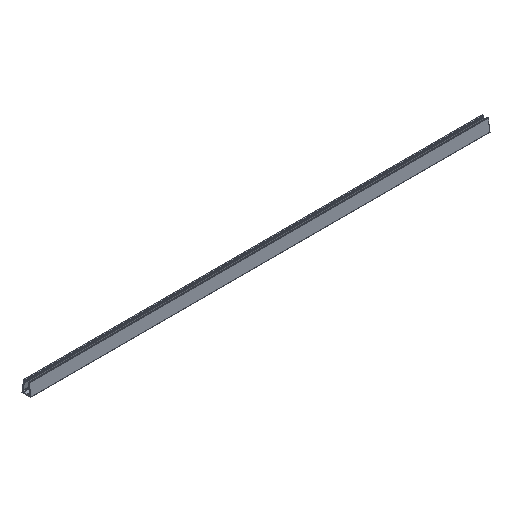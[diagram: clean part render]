
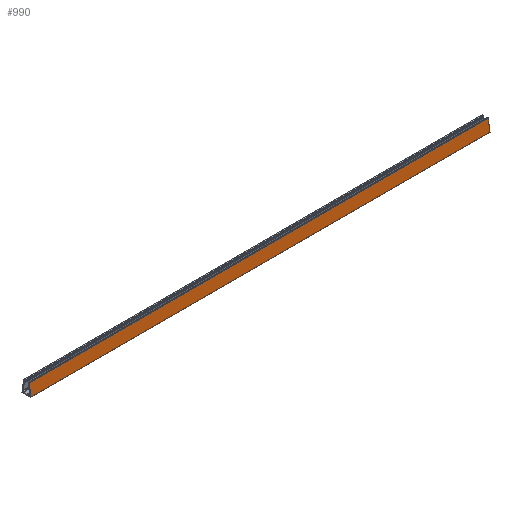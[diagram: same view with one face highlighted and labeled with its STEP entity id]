
A CAD part, isometric view. The second image highlights one B-rep face of the part: STEP entity #990.
In plain terms, the highlighted planar face has unit normal (0, -0.99, 0.138).
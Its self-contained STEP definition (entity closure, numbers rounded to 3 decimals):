
#90=FACE_OUTER_BOUND('',#142,.T.);
#142=EDGE_LOOP('',(#761,#762,#763,#764));
#232=LINE('',#1554,#348);
#233=LINE('',#1557,#349);
#234=LINE('',#1559,#350);
#235=LINE('',#1560,#351);
#348=VECTOR('',#1270,10.);
#349=VECTOR('',#1273,10.);
#350=VECTOR('',#1274,10.);
#351=VECTOR('',#1275,10.);
#455=VERTEX_POINT('',#1550);
#456=VERTEX_POINT('',#1552);
#457=VERTEX_POINT('',#1556);
#458=VERTEX_POINT('',#1558);
#580=EDGE_CURVE('',#455,#456,#232,.T.);
#581=EDGE_CURVE('',#457,#455,#233,.T.);
#582=EDGE_CURVE('',#458,#456,#234,.T.);
#583=EDGE_CURVE('',#457,#458,#235,.T.);
#761=ORIENTED_EDGE('',*,*,#581,.T.);
#762=ORIENTED_EDGE('',*,*,#580,.T.);
#763=ORIENTED_EDGE('',*,*,#582,.F.);
#764=ORIENTED_EDGE('',*,*,#583,.F.);
#944=PLANE('',#1074);
#990=ADVANCED_FACE('',(#90),#944,.T.);
#1074=AXIS2_PLACEMENT_3D('',#1555,#1271,#1272);
#1270=DIRECTION('',(1.,0.,0.));
#1271=DIRECTION('center_axis',(0.,-0.99,0.138));
#1272=DIRECTION('ref_axis',(0.,-0.138,-0.99));
#1273=DIRECTION('',(0.,-0.138,-0.99));
#1274=DIRECTION('',(0.,-0.138,-0.99));
#1275=DIRECTION('',(1.,0.,0.));
#1550=CARTESIAN_POINT('',(0.,-9.79,0.569));
#1552=CARTESIAN_POINT('',(1000.,-9.79,0.569));
#1554=CARTESIAN_POINT('',(0.,-9.79,0.569));
#1555=CARTESIAN_POINT('Origin',(0.,-6.249,25.906));
#1556=CARTESIAN_POINT('',(0.,-6.249,25.906));
#1557=CARTESIAN_POINT('',(0.,-6.249,25.906));
#1558=CARTESIAN_POINT('',(1000.,-6.249,25.906));
#1559=CARTESIAN_POINT('',(1000.,-6.249,25.906));
#1560=CARTESIAN_POINT('',(0.,-6.249,25.906));
